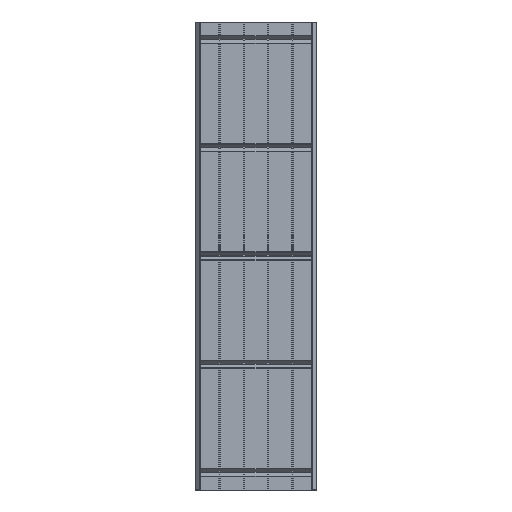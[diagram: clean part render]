
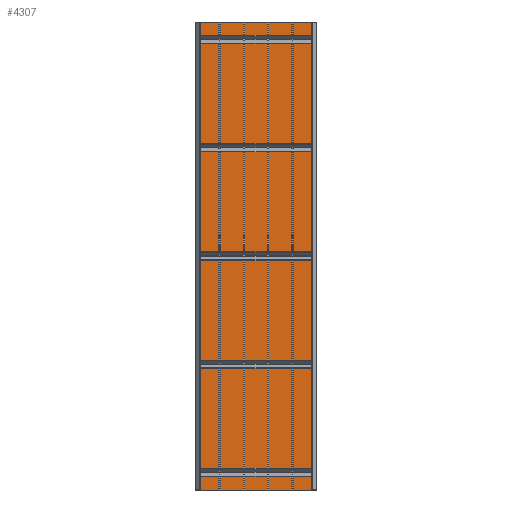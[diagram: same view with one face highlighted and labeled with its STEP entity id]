
A CAD part, front view. The second image highlights one B-rep face of the part: STEP entity #4307.
In plain terms, the highlighted planar face has unit normal (0, -1, 0).
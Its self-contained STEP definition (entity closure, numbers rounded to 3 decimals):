
#839 = EDGE_CURVE ( 'NONE', #8409, #10647, #13886, .T. ) ;
#1670 = EDGE_CURVE ( 'NONE', #29903, #10647, #45018, .T. ) ;
#1938 = EDGE_CURVE ( 'NONE', #10085, #8409, #34719, .T. ) ;
#3228 = CARTESIAN_POINT ( 'NONE',  ( -381., -68.75, 3010. ) ) ;
#3672 = VECTOR ( 'NONE', #46268, 1000. ) ;
#4307 = ADVANCED_FACE ( 'NONE', ( #24667 ), #55447, .T. ) ;
#4562 = DIRECTION ( 'NONE',  ( 1., 0., 0. ) ) ;
#6520 = CARTESIAN_POINT ( 'NONE',  ( -381., -68.75, 20. ) ) ;
#8284 = CARTESIAN_POINT ( 'NONE',  ( -381., -68.75, 20. ) ) ;
#8409 = VERTEX_POINT ( 'NONE', #55058 ) ;
#10085 = VERTEX_POINT ( 'NONE', #6520 ) ;
#10647 = VERTEX_POINT ( 'NONE', #50035 ) ;
#13642 = ORIENTED_EDGE ( 'NONE', *, *, #839, .T. ) ;
#13886 = LINE ( 'NONE', #22138, #54865 ) ;
#22138 = CARTESIAN_POINT ( 'NONE',  ( 381., -68.75, 20. ) ) ;
#22285 = ORIENTED_EDGE ( 'NONE', *, *, #22670, .F. ) ;
#22670 = EDGE_CURVE ( 'NONE', #10085, #29903, #55385, .T. ) ;
#23334 = CARTESIAN_POINT ( 'NONE',  ( -381., -68.75, 3010. ) ) ;
#24667 = FACE_OUTER_BOUND ( 'NONE', #30748, .T. ) ;
#27278 = DIRECTION ( 'NONE',  ( 0., 0., 1. ) ) ;
#29903 = VERTEX_POINT ( 'NONE', #3228 ) ;
#30748 = EDGE_LOOP ( 'NONE', ( #13642, #46457, #22285, #33900 ) ) ;
#33170 = CARTESIAN_POINT ( 'NONE',  ( -381., -68.75, 20. ) ) ;
#33900 = ORIENTED_EDGE ( 'NONE', *, *, #1938, .T. ) ;
#34719 = LINE ( 'NONE', #8284, #39372 ) ;
#35773 = VECTOR ( 'NONE', #40736, 1000. ) ;
#39372 = VECTOR ( 'NONE', #4562, 1000. ) ;
#40736 = DIRECTION ( 'NONE',  ( 1., 0., 0. ) ) ;
#41776 = DIRECTION ( 'NONE',  ( 0., 0., -1. ) ) ;
#42051 = CARTESIAN_POINT ( 'NONE',  ( -381., -68.75, 20. ) ) ;
#45018 = LINE ( 'NONE', #23334, #35773 ) ;
#46268 = DIRECTION ( 'NONE',  ( 0., 0., 1. ) ) ;
#46457 = ORIENTED_EDGE ( 'NONE', *, *, #1670, .F. ) ;
#50035 = CARTESIAN_POINT ( 'NONE',  ( 381., -68.75, 3010. ) ) ;
#50039 = DIRECTION ( 'NONE',  ( 0., -1., 0. ) ) ;
#53372 = AXIS2_PLACEMENT_3D ( 'NONE', #42051, #50039, #41776 ) ;
#54865 = VECTOR ( 'NONE', #27278, 1000. ) ;
#55058 = CARTESIAN_POINT ( 'NONE',  ( 381., -68.75, 20. ) ) ;
#55385 = LINE ( 'NONE', #33170, #3672 ) ;
#55447 = PLANE ( 'NONE',  #53372 ) ;
